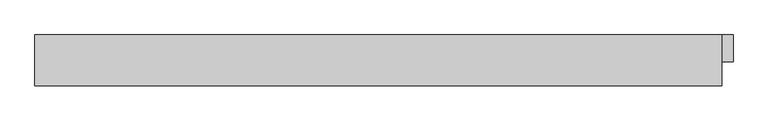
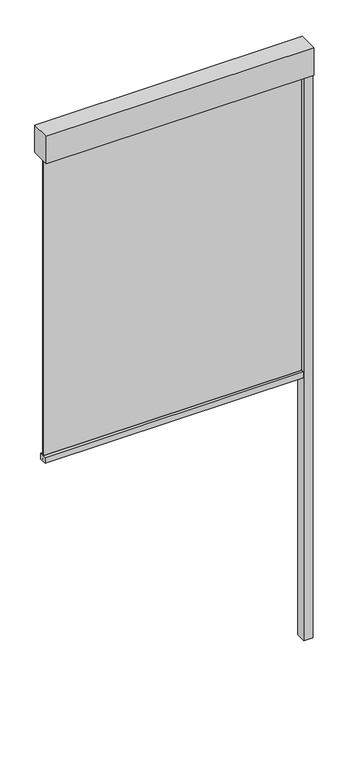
"""IFC4 building model written with IfcOpenShell, lengths in millimetres: proxy geometry, Renson_Fixscreen_Minimal_CW50_Middle : For curtain wall - Middle element - Access downwards - Fabric close to the window."""

import ifcopenshell
import ifcopenshell.guid

model = None  # the IFC model being written
_history = None  # IfcOwnerHistory: only IFC2X3 demands one
_inside = {}  # id of a spatial element -> (the spatial element, [elements in it])
_under = {}  # id of a project, library or spatial element -> (it, [spatial elements below it])
_declared = {}  # id of a project -> (the project, [libraries it declares])
_typed = {}  # id of a type object -> (the type object, [elements of that type])
_made_of = {}  # id of a material, layer set ... -> (it, [elements and type objects made of it])


def new_model(schema):
    """Start an empty IFC model of exactly this schema.

    Asked for "IFC4X3", IfcOpenShell would pick the latest addendum, in which some entities
    have other attributes; the version numbers below select the first issue.
    IFC2X3 requires an IfcOwnerHistory on every rooted entity: one is made here for all.
    """
    global model, _history
    if schema == "IFC4X3":
        model = ifcopenshell.file(schema_version=(4, 3, 0, 0))
    else:
        model = ifcopenshell.file(schema=schema)
    _inside.clear()
    _under.clear()
    _declared.clear()
    _typed.clear()
    _made_of.clear()
    _history = None
    if model.schema == "IFC2X3":
        org = make("IfcOrganization", Name="unknown")
        user = make(
            "IfcPersonAndOrganization",
            ThePerson=make("IfcPerson", FamilyName="unknown"),
            TheOrganization=org,
        )
        app = make(
            "IfcApplication",
            ApplicationDeveloper=org,
            Version="unknown",
            ApplicationFullName="unknown",
            ApplicationIdentifier="unknown",
        )
        _history = make(
            "IfcOwnerHistory",
            OwningUser=user,
            OwningApplication=app,
            ChangeAction="ADDED",
            CreationDate=0,
        )
    return model


def make(cls, **values):
    """One entity of the class cls with the attributes given. An attribute that is None is left unset."""
    return model.create_entity(
        cls, **{name: value for name, value in values.items() if value is not None}
    )


def rooted(cls, **values):
    """An entity with a GlobalId (a new one), such as an element, a storey or a relation."""
    return make(cls, GlobalId=ifcopenshell.guid.new(), OwnerHistory=_history, **values)


def si_unit(unit_type, name, prefix=None):
    """IfcSIUnit, for example si_unit("LENGTHUNIT", "METRE", prefix="MILLI")."""
    return make("IfcSIUnit", UnitType=unit_type, Prefix=prefix, Name=name)


def assignment(units):
    """IfcUnitAssignment: the units of a project."""
    return None if units is None else make("IfcUnitAssignment", Units=units)


def point(xyz):
    """IfcCartesianPoint."""
    return None if xyz is None else make("IfcCartesianPoint", Coordinates=xyz)


def direction(xyz):
    """IfcDirection."""
    return None if xyz is None else make("IfcDirection", DirectionRatios=xyz)


def frame(location, z_axis=None, x_axis=None):
    """IfcAxis2Placement3D, a coordinate frame: its origin and axes. An axis left out is left unset."""
    return make(
        "IfcAxis2Placement3D",
        Location=point(location),
        Axis=direction(z_axis),
        RefDirection=direction(x_axis),
    )


def frame_2d(location, x_axis=None):
    """IfcAxis2Placement2D, a coordinate frame in the plane: its origin and x axis."""
    return make(
        "IfcAxis2Placement2D", Location=point(location), RefDirection=direction(x_axis)
    )


def origin():
    """The frame at (0, 0, 0) with its axes left unset."""
    return frame((0.0, 0.0, 0.0))


def origin_with_axes():
    """The frame at (0, 0, 0) with the z axis (0, 0, 1) and the x axis (1, 0, 0) written out."""
    return frame((0.0, 0.0, 0.0), z_axis=(0.0, 0.0, 1.0), x_axis=(1.0, 0.0, 0.0))


def place(relative_to, where):
    """IfcLocalPlacement: puts the frame where relative to a parent placement (None: the world)."""
    return make(
        "IfcLocalPlacement", PlacementRelTo=relative_to, RelativePlacement=where
    )


def context(
    kind, dimensions, precision=None, world=None, true_north=None, identifier=None
):
    """IfcGeometricRepresentationContext, for example the 3D "Model" context."""
    return make(
        "IfcGeometricRepresentationContext",
        ContextIdentifier=identifier,
        ContextType=kind,
        CoordinateSpaceDimension=dimensions,
        Precision=precision,
        WorldCoordinateSystem=world,
        TrueNorth=true_north,
    )


def project(units=None, contexts=None):
    """IfcProject with its units and contexts."""
    return rooted(
        "IfcProject",
        Name="project",
        RepresentationContexts=contexts,
        UnitsInContext=assignment(units),
    )


def spatial(cls, under=None, at=None, **own):
    """A site, building, storey or space (cls), placed at a placement, below another one or the project."""
    s = rooted(cls, ObjectPlacement=at, **own)
    if under is not None:
        _under.setdefault(under.id(), (under, []))[1].append(s)
    return s


def polyline(points):
    """IfcPolyline through the points."""
    return make("IfcPolyline", Points=[point(p) for p in points])


def circle_curve(where, radius):
    """IfcCircle in the frame where."""
    return make("IfcCircle", Position=where, Radius=radius)


def trimmed(basis, trim1, trim2, sense, master):
    """IfcTrimmedCurve: the piece of a basis curve between two trims."""
    return make(
        "IfcTrimmedCurve",
        BasisCurve=basis,
        Trim1=trim1,
        Trim2=trim2,
        SenseAgreement=sense,
        MasterRepresentation=master,
    )


def segment(curve, same_sense, transition):
    """IfcCompositeCurveSegment."""
    return make(
        "IfcCompositeCurveSegment",
        Transition=transition,
        SameSense=same_sense,
        ParentCurve=curve,
    )


def composite_curve(segments, self_intersect=None):
    """IfcCompositeCurve: segments joined end to end."""
    return make("IfcCompositeCurve", Segments=segments, SelfIntersect=self_intersect)


def outline(outer, holes=None, kind="AREA"):
    """IfcArbitraryClosedProfileDef: a profile drawn as a closed curve; with holes, ...WithVoids."""
    if holes is None:
        return make("IfcArbitraryClosedProfileDef", ProfileType=kind, OuterCurve=outer)
    return make(
        "IfcArbitraryProfileDefWithVoids",
        ProfileType=kind,
        OuterCurve=outer,
        InnerCurves=holes,
    )


def extrude(swept, where, along, depth):
    """IfcExtrudedAreaSolid: the profile swept, set in the frame where, extruded along a direction by depth."""
    return make(
        "IfcExtrudedAreaSolid",
        SweptArea=swept,
        Position=where,
        ExtrudedDirection=direction(along),
        Depth=depth,
    )


def shape(context_of_items, identifier, shape_type, items):
    """IfcShapeRepresentation: the items that make up one representation, for example the "Body"."""
    return make(
        "IfcShapeRepresentation",
        ContextOfItems=context_of_items,
        RepresentationIdentifier=identifier,
        RepresentationType=shape_type,
        Items=items,
    )


def source(mapping_origin, context_of_items, identifier, shape_type, items):
    """IfcRepresentationMap: a shape defined once, which mapped items show again and again."""
    return make(
        "IfcRepresentationMap",
        MappingOrigin=mapping_origin,
        MappedRepresentation=shape(context_of_items, identifier, shape_type, items),
    )


def transform(
    local_origin,
    x_axis=None,
    y_axis=None,
    z_axis=None,
    scale=None,
    scale2=None,
    scale3=None,
    uniform=True,
):
    """IfcCartesianTransformationOperator3D, or its non-uniform kind. x_axis, y_axis, z_axis: its Axis1, 2, 3."""
    if uniform:
        return make(
            "IfcCartesianTransformationOperator3D",
            Axis1=direction(x_axis),
            Axis2=direction(y_axis),
            LocalOrigin=point(local_origin),
            Scale=scale,
            Axis3=direction(z_axis),
        )
    return make(
        "IfcCartesianTransformationOperator3DnonUniform",
        Axis1=direction(x_axis),
        Axis2=direction(y_axis),
        LocalOrigin=point(local_origin),
        Scale=scale,
        Axis3=direction(z_axis),
        Scale2=scale2,
        Scale3=scale3,
    )


def mapped(mapping_source, mapping_target):
    """IfcMappedItem: shows the shape of a source again, moved by a transform."""
    return make(
        "IfcMappedItem", MappingSource=mapping_source, MappingTarget=mapping_target
    )


def made_of(thing, what):
    """Note that an element or type object is made of a material, layer set ...; save() writes the relation."""
    if what is not None:
        _made_of.setdefault(what.id(), (what, []))[1].append(thing)
    return thing


def element(
    cls,
    number,
    at=None,
    inside=None,
    cuts=None,
    type_object=None,
    material=None,
    context=None,
    identifier="Body",
    shape_type=None,
    held_by="IfcProductDefinitionShape",
    body=None,
    shapes=None,
    **own,
):
    """One element of the class cls, such as IfcWall. Its Tag is "e" and its number.

    at: its placement. inside: the storey or other place that contains it. cuts: it is an
    opening in that element (IfcRelVoidsElement). A single representation is given by context,
    identifier, shape_type and body (its items); several are given by shapes. held_by: the class
    of the entity that holds the representations. save() writes the other relations.
    """
    e = rooted(cls, Tag="e%d" % number, ObjectPlacement=at, **own)
    if body is not None:
        shapes = [shape(context, identifier, shape_type, body)]
    if shapes is not None:
        e.Representation = make(held_by, Representations=shapes)
    if inside is not None:
        _inside.setdefault(inside.id(), (inside, []))[1].append(e)
    if cuts is not None:
        rooted(
            "IfcRelVoidsElement", RelatingBuildingElement=cuts, RelatedOpeningElement=e
        )
    if type_object is not None:
        _typed.setdefault(type_object.id(), (type_object, []))[1].append(e)
    return made_of(e, material)


def aggregate(whole, parts):
    """IfcRelAggregates: a whole, such as a stair, and the parts it consists of."""
    return rooted("IfcRelAggregates", RelatingObject=whole, RelatedObjects=parts)


def save(model, path):
    """Write the relations noted so far, then the file.

    IfcRelAggregates (storeys below a building ...), IfcRelContainedInSpatialStructure (elements
    in a storey), IfcRelDefinesByType, IfcRelAssociatesMaterial and IfcRelDeclares: one each for
    every whole, place, type object, material and project.
    """
    for whole, parts in _under.values():
        aggregate(whole, parts)
    for where, things in _inside.values():
        rooted(
            "IfcRelContainedInSpatialStructure",
            RelatedElements=things,
            RelatingStructure=where,
        )
    for kind, things in _typed.values():
        rooted("IfcRelDefinesByType", RelatedObjects=things, RelatingType=kind)
    for what, things in _made_of.values():
        rooted("IfcRelAssociatesMaterial", RelatedObjects=things, RelatingMaterial=what)
    for by, libraries in _declared.values():
        rooted("IfcRelDeclares", RelatingContext=by, RelatedDefinitions=libraries)
    model.write(path)


def generic_models_541ef5a7(model_context):
    return source(origin(), model_context, "Body", "SweptSolid", [
        extrude(outline(polyline([(530.0, -751.5959909), (480.0, -751.5959909), (480.0, -693.5959909), (530.0, -693.5959909), (530.0, -751.5959909)])), origin_with_axes(), (0.0, 0.0, 1.0), 3340.0),
        extrude(outline(polyline([(-980.0, -693.5959909), (505.0, -693.5959909), (505.0, -803.5959909), (-980.0, -803.5959909), (-980.0, -693.5959909)])), frame((0.0, 0.0, 3340.0), z_axis=(0.0, 0.0, 1.0), x_axis=(1.0, 0.0, 0.0)), (0.0, 0.0, 1.0), 160.0),
        extrude(outline(composite_curve([segment(polyline([(-708.5959909, 1540.0), (-749.0958874, 1540.0), (-749.0958874, 1574.1156826), (-731.9717779, 1575.0000198)]), True, "CONTINUOUS"), segment(trimmed(circle_curve(frame_2d((-731.9459909, 1574.5006852)), 0.5), [point((-731.9717779, 1575.0000198))], [point((-731.4459909, 1574.5006852))], False, "CARTESIAN"), True, "CONTINUOUS"), segment(polyline([(-731.4459909, 1574.5006852), (-731.4459909, 1573.5367989), (-732.7111292, 1573.5367989), (-731.9708257, 1569.0119223)]), True, "CONTINUOUS"), segment(trimmed(circle_curve(frame_2d((-771.4459909, 1562.5534911)), 40.0), [point((-731.9708257, 1569.0119223))], [point((-731.4459909, 1562.5534911))], False, "CARTESIAN"), True, "CONTINUOUS"), segment(polyline([(-731.4459909, 1562.5534911), (-731.4459909, 1554.5006852)]), True, "CONTINUOUS"), segment(trimmed(circle_curve(frame_2d((-729.4459909, 1554.5006852)), 2.0), [point((-731.4459909, 1554.5006852))], [point((-729.4459909, 1552.5006852))], True, "CARTESIAN"), True, "CONTINUOUS"), segment(polyline([(-729.4459909, 1552.5006852), (-727.7459909, 1552.5006852)]), True, "CONTINUOUS"), segment(trimmed(circle_curve(frame_2d((-727.7459909, 1554.5006852)), 2.0), [point((-727.7459909, 1552.5006852))], [point((-725.7459909, 1554.5006852))], True, "CARTESIAN"), True, "CONTINUOUS"), segment(polyline([(-725.7459909, 1554.5006852), (-725.7459909, 1562.5534911)]), True, "CONTINUOUS"), segment(trimmed(circle_curve(frame_2d((-685.7459909, 1562.5534911)), 40.0), [point((-725.7459909, 1562.5534911))], [point((-725.221156, 1569.0119223))], False, "CARTESIAN"), True, "CONTINUOUS"), segment(polyline([(-725.221156, 1569.0119223), (-724.4808525, 1573.5367989), (-725.7459909, 1573.5367989), (-725.7459909, 1574.5006852)]), True, "CONTINUOUS"), segment(trimmed(circle_curve(frame_2d((-725.2459909, 1574.5006852)), 0.5), [point((-725.7459909, 1574.5006852))], [point((-725.2194276, 1574.9999791))], False, "CARTESIAN"), True, "CONTINUOUS"), segment(polyline([(-725.2194276, 1574.9999791), (-708.5959909, 1574.1156826), (-708.5959909, 1540.0)]), True, "CONTINUOUS")], self_intersect=False)), frame((-955.0, 0.0, 0.0), z_axis=(1.0, 0.0, 0.0), x_axis=(0.0, 1.0, 0.0)), (0.0, 0.0, 1.0), 1435.0),
        extrude(outline(polyline([(-955.0, -730.0959909), (-955.0, -727.0959909), (480.0, -727.0959909), (480.0, -730.0959909), (-955.0, -730.0959909)])), frame((0.0, 0.0, 1552.5006852), z_axis=(0.0, 0.0, 1.0), x_axis=(1.0, 0.0, 0.0)), (0.0, 0.0, 1.0), 1787.4993148),
    ])


if __name__ == "__main__":
    model = new_model("IFC4")
    model_context = context("Model", 3, world=origin())
    ifc_project = project(units=[si_unit("LENGTHUNIT", "METRE", prefix="MILLI")], contexts=[model_context])
    site = spatial("IfcSite", under=ifc_project)
    building = spatial("IfcBuilding", under=site)
    placement = place(None, origin())
    generic_models_shape = generic_models_541ef5a7(model_context)
    element("IfcBuildingElementProxy", 1, Name="Renson_Fixscreen_Minimal_CW50_Middle : For curtain wall - Middle element - Access downwards - Fabric close to the window", ObjectType="Renson_Fixscreen_Minimal_CW50_Middle : For curtain wall - Middle element - Access downwards - Fabric close to the window", at=placement, inside=building, context=model_context, shape_type="MappedRepresentation", body=[
        mapped(generic_models_shape, transform((0.0, 0.0, 0.0), x_axis=(1.0, 0.0, 0.0), y_axis=(0.0, 1.0, 0.0), z_axis=(0.0, 0.0, 1.0))),
    ])
    save(model, "model.ifc")
